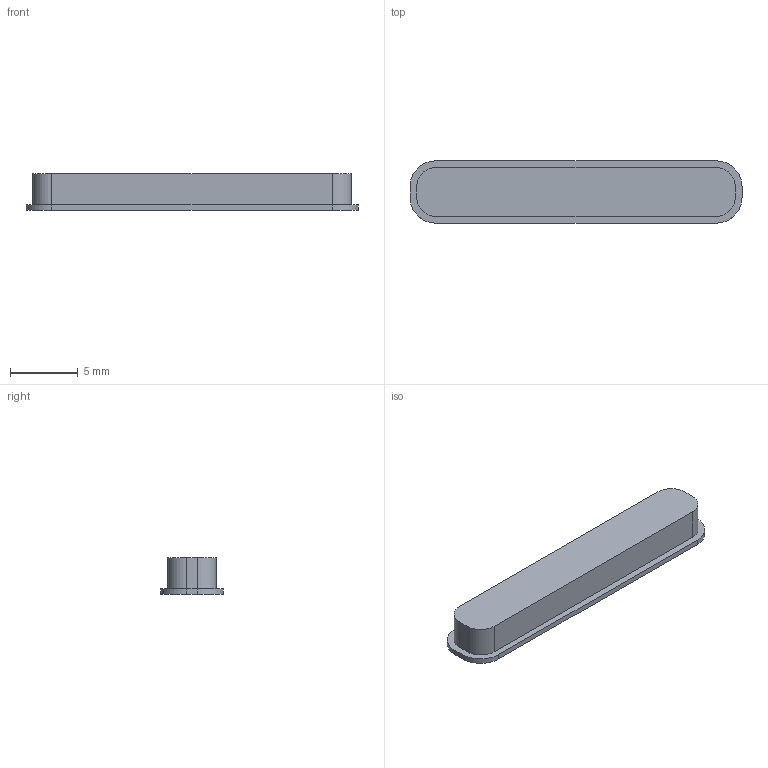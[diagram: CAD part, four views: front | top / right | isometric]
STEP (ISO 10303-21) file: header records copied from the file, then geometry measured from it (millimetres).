
FILE_DESCRIPTION(('Open CASCADE Model'),'2;1');
FILE_NAME('Role diffuser, long','2026-11-11T17:10:57',('Author'),( 'Open CASCADE'),'Open CASCADE STEP processor 7.8','build123d', 'Unknown');
FILE_SCHEMA(('AUTOMOTIVE_DESIGN { 1 0 10303 214 1 1 1 1 }'));
Length unit declared in the file: millimetre
Products named in the file (1): Role diffuser, long
Bounding box: 24.5 x 4.6 x 2.7 mm (x, y, z)
Volume: 234.6 mm3; surface area: 360.3 mm2
Topology: 1 solids, 1 shells, 19 faces, 48 edges, 32 vertices
Faces by surface type: plane 11, cylinder 8
Entity records: 1223 total; most frequent: DIRECTION 200, CARTESIAN_POINT 196, LINE 112, VECTOR 112, ORIENTED_EDGE 96, PCURVE 96, DEFINITIONAL_REPRESENTATION 96, EDGE_CURVE 48
